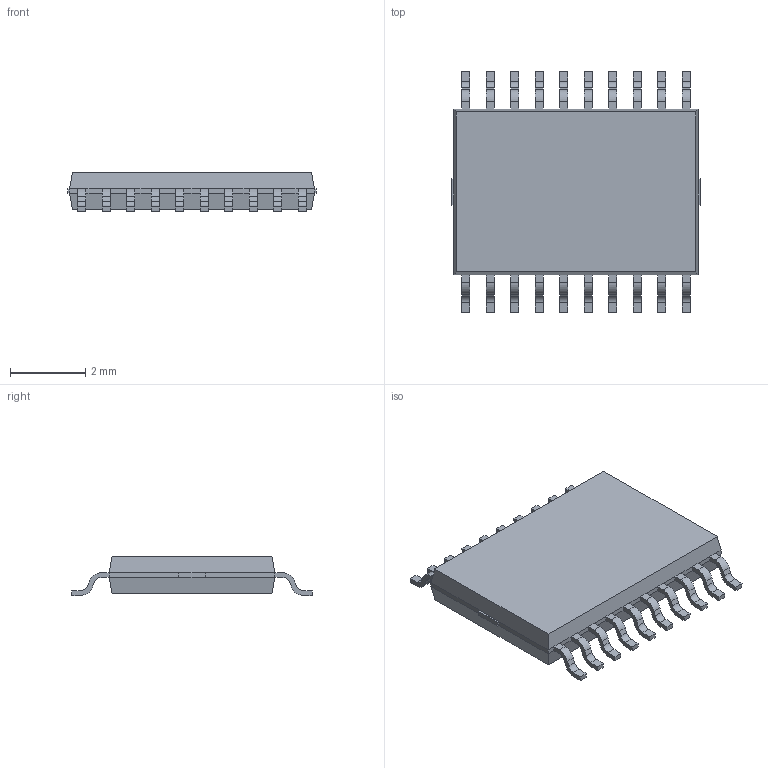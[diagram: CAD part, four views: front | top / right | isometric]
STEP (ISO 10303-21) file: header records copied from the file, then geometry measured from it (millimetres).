
FILE_DESCRIPTION (( 'STEP AP214' ), '1' );
FILE_NAME ('LP20.STEP', '2017-02-17T15:39:27', ( '' ), ( '' ), 'SwSTEP 2.0', 'SolidWorks 2015', '' );
FILE_SCHEMA (( 'AUTOMOTIVE_DESIGN' ));
Length unit declared in the file: millimetre
Products named in the file (1): LP20
Bounding box: 6.6 x 6.4 x 1.05 mm (x, y, z)
Volume: 28.6 mm3; surface area: 93 mm2
Topology: 1 solids, 1 shells, 307 faces, 832 edges, 528 vertices
Faces by surface type: plane 227, cylinder 80
Entity records: 9940 total; most frequent: CARTESIAN_POINT 1668, ORIENTED_EDGE 1664, DIRECTION 1612, EDGE_CURVE 832, VECTOR 668, LINE 668, VERTEX_POINT 528, AXIS2_PLACEMENT_3D 472
